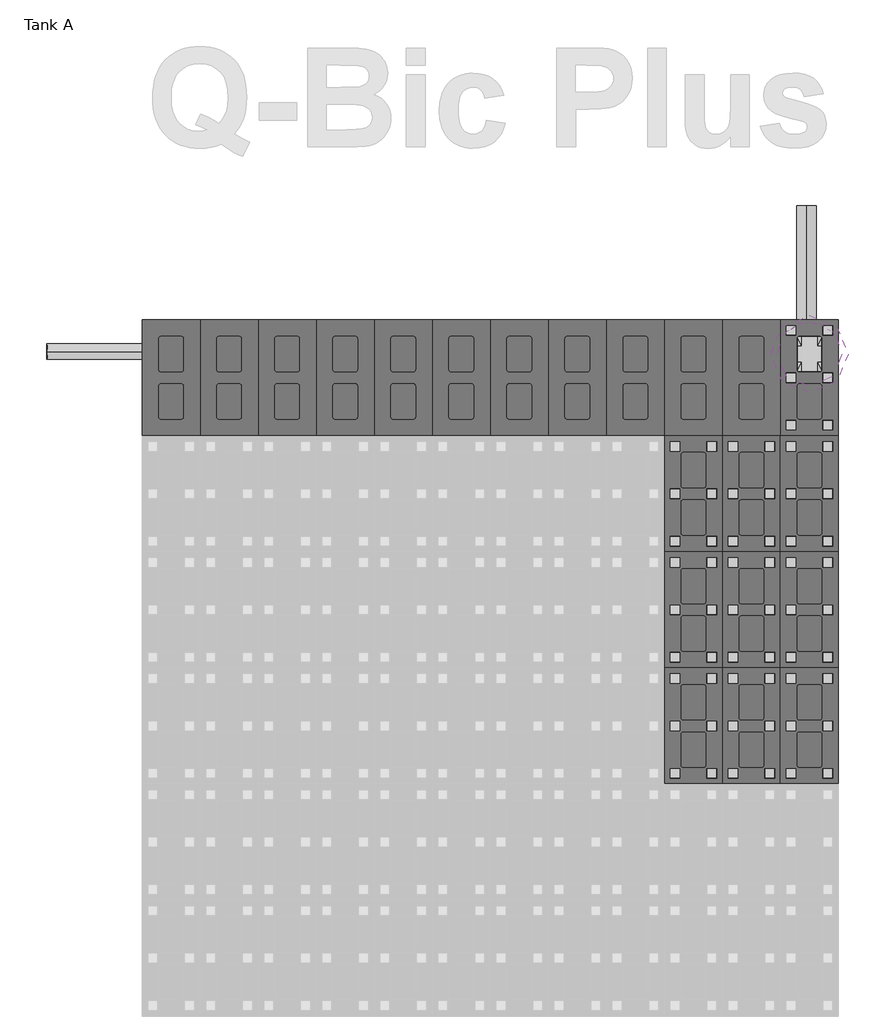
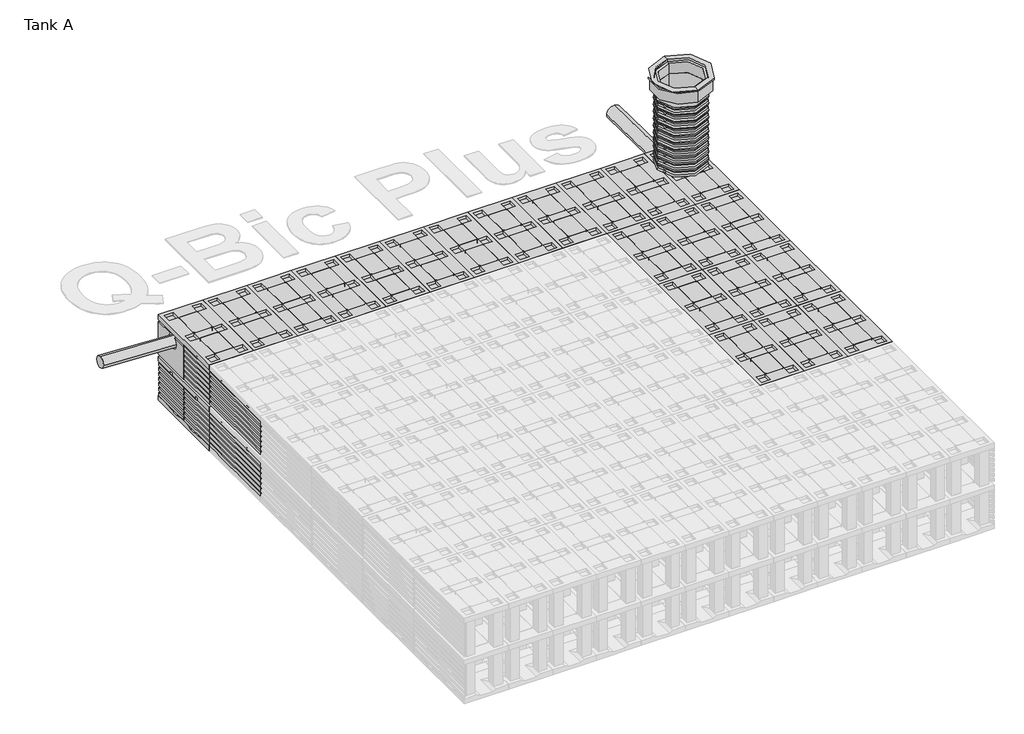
# One storey, part 4 of 6: 92 unitary equipment elements, 2 pipe fittings, 2 pipe segments.
"""IFC4 building model written with IfcOpenShell, lengths in millimetres."""

from ifc_helpers import new_model, si_unit, point, frame, frame_2d, origin, place, context, project, spatial, circle_curve, trimmed, segment, composite_curve, outline, extrude, transform, mapped, element, save
from components import pipe_fitting_6d64b734, pipe_fitting_905b8aec, std_ea1399cf, unitary_equipment_600_9c861f79, closed_bottom_plate_7d425a97, std_f31acf44, std_0451be0c, std_fc4b4af1, std_48edb1db, std_d7962c01

model = new_model("IFC4")

# Units and contexts
model_context = context("Model", 3, world=origin())
ifc_project = project(units=[si_unit("LENGTHUNIT", "METRE", prefix="MILLI")], contexts=[model_context])

# Site, building, storey
site = spatial("IfcSite", under=ifc_project)
building = spatial("IfcBuilding", under=site)
storey = spatial("IfcBuildingStorey", under=building, Name="Tank A", Elevation=-2300.0)

# Pipe fittings
placement = place(None, origin())
pipe_fitting_shape = pipe_fitting_6d64b734(model_context)
pipe_fitting_2_shape = pipe_fitting_905b8aec(model_context)
element("IfcPipeFitting", 1, ObjectType="Z_PIF_UN_Q-Bic_Plus_Shaft_Pipe_Wavin_(nested) : PP, RAL8012, ø600mm", at=placement, inside=storey, context=model_context, shape_type="MappedRepresentation", body=[
    mapped(pipe_fitting_shape, transform((9386.051096, 9605.7779398, -1070.0), x_axis=(0.0, 0.0, 1.0), y_axis=(1.0, 0.0, 0.0), z_axis=(0.0, 1.0, 0.0))),
    mapped(pipe_fitting_2_shape, transform((9386.051096, 9605.7779398, -1070.0), x_axis=(0.0, 0.0, 1.0), y_axis=(1.0, 0.0, 0.0), z_axis=(0.0, 1.0, 0.0))),
])
std_shape = std_ea1399cf(model_context)
element("IfcPipeFitting", 2, ObjectType="Z_PIF_UN_Q-Bic_Plus_Telescopic_Frame_Wavin_(nested) : std", at=placement, inside=storey, context=model_context, shape_type="MappedRepresentation", body=[
    mapped(std_shape, transform((9386.051096, 9605.7779398, 200.0), x_axis=(0.0, -1.0, 0.0), y_axis=(1.0, 0.0, 0.0), z_axis=(0.0, 0.0, 1.0))),
])

# Pipe segments
element("IfcPipeSegment", 3, ObjectType="Generic PVC", at=placement, inside=storey, context=model_context, shape_type="SweptSolid", body=[
    extrude(outline(composite_curve([segment(trimmed(circle_curve(frame_2d((0.0, -100.0)), 100.0), [point((100.0, -100.0))], [point((0.0, -200.0000001))], False, "CARTESIAN"), True, "CONTINUOUS"), segment(trimmed(circle_curve(frame_2d((0.0, -100.0)), 100.0), [point((0.0, -200.0000001))], [point((-100.0, -100.0))], False, "CARTESIAN"), True, "CONTINUOUS"), segment(trimmed(circle_curve(frame_2d((0.0, -100.0)), 100.0), [point((-100.0, -100.0))], [point((0.0, 0.0))], False, "CARTESIAN"), True, "CONTINUOUS"), segment(trimmed(circle_curve(frame_2d((0.0, -100.0)), 100.0), [point((0.0, 0.0))], [point((100.0, -100.0))], False, "CARTESIAN"), True, "CONTINUOUS")], self_intersect=False)), frame((9356.051096, 11141.0805056, -1184.0250628), z_axis=(0.0, -0.9997493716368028, 0.022387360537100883), x_axis=(1.0, 0.0, 0.0)), (0.0, 0.0, 1.0), 1228.3716946),
])
element("IfcPipeSegment", 4, ObjectType="Generic PVC", at=placement, inside=storey, context=model_context, shape_type="SweptSolid", body=[
    extrude(outline(composite_curve([segment(trimmed(circle_curve(frame_2d((0.0, 80.0)), 80.0), [point((-0.0897313, 159.9999497))], [point((79.9999497, 80.0897313))], False, "CARTESIAN"), True, "CONTINUOUS"), segment(trimmed(circle_curve(frame_2d((0.0, 80.0)), 80.0), [point((79.9999497, 80.0897313))], [point((0.0897313, 5.03e-05))], False, "CARTESIAN"), True, "CONTINUOUS"), segment(trimmed(circle_curve(frame_2d((0.0, 80.0)), 80.0), [point((0.0897313, 5.03e-05))], [point((-79.9999497, 79.9102687))], False, "CARTESIAN"), True, "CONTINUOUS"), segment(trimmed(circle_curve(frame_2d((0.0, 80.0)), 80.0), [point((-79.9999497, 79.9102687))], [point((-0.0897313, 159.9999497))], False, "CARTESIAN"), True, "CONTINUOUS")], self_intersect=False)), frame((2536.051096, 9550.77799, -1256.5896265), z_axis=(-0.9988321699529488, -5.4128306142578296e-05, 0.04831452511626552), x_axis=(0.0483145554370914, -0.0011190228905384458, 0.9988315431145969)), (0.0, 0.0, 1.0), 1034.8854693),
])

# Unitary equipment
unitary_equipment_600_shape = unitary_equipment_600_9c861f79(model_context)
element("IfcUnitaryEquipment", 5, ObjectType="Z_ME_UN_Q-Bic_Plus_Kit_Shaft_Connector_Wavin_(nested) : 600", at=placement, inside=storey, context=model_context, shape_type="MappedRepresentation", body=[
    mapped(unitary_equipment_600_shape, transform((9386.051096, 9605.7779398, -1070.0), x_axis=(0.0, -1.0, 0.0), y_axis=(1.0, 0.0, 0.0), z_axis=(0.0, 0.0, 1.0))),
])
closed_bottom_plate_shape = closed_bottom_plate_7d425a97(model_context)
element("IfcUnitaryEquipment", 6, ObjectType="Z_ME_UN_Q-Bic_Plus_Bottom_Plate_Wavin_(nested) : Open bottom plate", at=placement, inside=storey, context=model_context, shape_type="MappedRepresentation", body=[
    mapped(closed_bottom_plate_shape, transform((2486.051096, 9960.7779398, -2230.0), x_axis=(0.0, -1.0000000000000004, 0.0), y_axis=(1.0000000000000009, 0.0, 0.0), z_axis=(0.0, 0.0, 1.0000000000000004))),
])
element("IfcUnitaryEquipment", 7, ObjectType="Z_ME_UN_Q-Bic_Plus_Bottom_Plate_Wavin_(nested) : Open bottom plate", at=placement, inside=storey, context=model_context, shape_type="MappedRepresentation", body=[
    mapped(closed_bottom_plate_shape, transform((9686.051096, 5160.7779398, -2230.0), x_axis=(0.0, 1.0, 0.0), y_axis=(-1.0000000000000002, 0.0, 0.0), z_axis=(0.0, 0.0, 1.0000000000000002))),
])
element("IfcUnitaryEquipment", 8, ObjectType="Z_ME_UN_Q-Bic_Plus_Bottom_Plate_Wavin_(nested) : Open bottom plate", at=placement, inside=storey, context=model_context, shape_type="MappedRepresentation", body=[
    mapped(closed_bottom_plate_shape, transform((9686.051096, 6360.7779398, -2230.0), x_axis=(0.0, 1.0, 0.0), y_axis=(-1.0000000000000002, 0.0, 0.0), z_axis=(0.0, 0.0, 1.0000000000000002))),
])
element("IfcUnitaryEquipment", 9, ObjectType="Z_ME_UN_Q-Bic_Plus_Bottom_Plate_Wavin_(nested) : Open bottom plate", at=placement, inside=storey, context=model_context, shape_type="MappedRepresentation", body=[
    mapped(closed_bottom_plate_shape, transform((9686.051096, 7560.7779398, -2230.0), x_axis=(0.0, 1.0, 0.0), y_axis=(-1.0000000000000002, 0.0, 0.0), z_axis=(0.0, 0.0, 1.0000000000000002))),
])
element("IfcUnitaryEquipment", 10, ObjectType="Z_ME_UN_Q-Bic_Plus_Bottom_Plate_Wavin_(nested) : Open bottom plate", at=placement, inside=storey, context=model_context, shape_type="MappedRepresentation", body=[
    mapped(closed_bottom_plate_shape, transform((9086.051096, 5160.7779398, -2230.0), x_axis=(0.0, 1.0, 0.0), y_axis=(-1.0000000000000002, 0.0, 0.0), z_axis=(0.0, 0.0, 1.0000000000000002))),
])
element("IfcUnitaryEquipment", 11, ObjectType="Z_ME_UN_Q-Bic_Plus_Bottom_Plate_Wavin_(nested) : Open bottom plate", at=placement, inside=storey, context=model_context, shape_type="MappedRepresentation", body=[
    mapped(closed_bottom_plate_shape, transform((9086.051096, 6360.7779398, -2230.0), x_axis=(0.0, 1.0, 0.0), y_axis=(-1.0000000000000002, 0.0, 0.0), z_axis=(0.0, 0.0, 1.0000000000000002))),
])
element("IfcUnitaryEquipment", 12, ObjectType="Z_ME_UN_Q-Bic_Plus_Bottom_Plate_Wavin_(nested) : Open bottom plate", at=placement, inside=storey, context=model_context, shape_type="MappedRepresentation", body=[
    mapped(closed_bottom_plate_shape, transform((9086.051096, 7560.7779398, -2230.0), x_axis=(0.0, 1.0, 0.0), y_axis=(-1.0000000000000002, 0.0, 0.0), z_axis=(0.0, 0.0, 1.0000000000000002))),
])
element("IfcUnitaryEquipment", 13, ObjectType="Z_ME_UN_Q-Bic_Plus_Bottom_Plate_Wavin_(nested) : Open bottom plate", at=placement, inside=storey, context=model_context, shape_type="MappedRepresentation", body=[
    mapped(closed_bottom_plate_shape, transform((8486.051096, 5160.7779398, -2230.0), x_axis=(0.0, 1.0, 0.0), y_axis=(-1.0000000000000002, 0.0, 0.0), z_axis=(0.0, 0.0, 1.0000000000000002))),
])
element("IfcUnitaryEquipment", 14, ObjectType="Z_ME_UN_Q-Bic_Plus_Bottom_Plate_Wavin_(nested) : Open bottom plate", at=placement, inside=storey, context=model_context, shape_type="MappedRepresentation", body=[
    mapped(closed_bottom_plate_shape, transform((8486.051096, 6360.7779398, -2230.0), x_axis=(0.0, 1.0, 0.0), y_axis=(-1.0000000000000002, 0.0, 0.0), z_axis=(0.0, 0.0, 1.0000000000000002))),
])
element("IfcUnitaryEquipment", 15, ObjectType="Z_ME_UN_Q-Bic_Plus_Bottom_Plate_Wavin_(nested) : Open bottom plate", at=placement, inside=storey, context=model_context, shape_type="MappedRepresentation", body=[
    mapped(closed_bottom_plate_shape, transform((8486.051096, 7560.7779398, -2230.0), x_axis=(0.0, 1.0, 0.0), y_axis=(-1.0000000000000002, 0.0, 0.0), z_axis=(0.0, 0.0, 1.0000000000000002))),
])
element("IfcUnitaryEquipment", 16, ObjectType="Z_ME_UN_Q-Bic_Plus_Bottom_Plate_Wavin_(nested) : Open bottom plate", at=placement, inside=storey, context=model_context, shape_type="MappedRepresentation", body=[
    mapped(closed_bottom_plate_shape, transform((3086.051096, 9960.7779398, -2230.0), x_axis=(0.0, -1.0, 0.0), y_axis=(1.0000000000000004, 0.0, 0.0), z_axis=(0.0, 0.0, 1.0000000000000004))),
])
element("IfcUnitaryEquipment", 17, ObjectType="Z_ME_UN_Q-Bic_Plus_Bottom_Plate_Wavin_(nested) : Open bottom plate", at=placement, inside=storey, context=model_context, shape_type="MappedRepresentation", body=[
    mapped(closed_bottom_plate_shape, transform((3686.051096, 9960.7779398, -2230.0), x_axis=(0.0, -1.0, 0.0), y_axis=(1.0000000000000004, 0.0, 0.0), z_axis=(0.0, 0.0, 1.0000000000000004))),
])
element("IfcUnitaryEquipment", 18, ObjectType="Z_ME_UN_Q-Bic_Plus_Bottom_Plate_Wavin_(nested) : Open bottom plate", at=placement, inside=storey, context=model_context, shape_type="MappedRepresentation", body=[
    mapped(closed_bottom_plate_shape, transform((4286.051096, 9960.7779398, -2230.0), x_axis=(0.0, -1.0, 0.0), y_axis=(1.0000000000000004, 0.0, 0.0), z_axis=(0.0, 0.0, 1.0000000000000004))),
])
element("IfcUnitaryEquipment", 19, ObjectType="Z_ME_UN_Q-Bic_Plus_Bottom_Plate_Wavin_(nested) : Open bottom plate", at=placement, inside=storey, context=model_context, shape_type="MappedRepresentation", body=[
    mapped(closed_bottom_plate_shape, transform((4886.051096, 9960.7779398, -2230.0), x_axis=(0.0, -1.0, 0.0), y_axis=(1.0000000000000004, 0.0, 0.0), z_axis=(0.0, 0.0, 1.0000000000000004))),
])
element("IfcUnitaryEquipment", 20, ObjectType="Z_ME_UN_Q-Bic_Plus_Bottom_Plate_Wavin_(nested) : Open bottom plate", at=placement, inside=storey, context=model_context, shape_type="MappedRepresentation", body=[
    mapped(closed_bottom_plate_shape, transform((5486.051096, 9960.7779398, -2230.0), x_axis=(0.0, -1.0, 0.0), y_axis=(1.0000000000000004, 0.0, 0.0), z_axis=(0.0, 0.0, 1.0000000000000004))),
])
element("IfcUnitaryEquipment", 21, ObjectType="Z_ME_UN_Q-Bic_Plus_Bottom_Plate_Wavin_(nested) : Open bottom plate", at=placement, inside=storey, context=model_context, shape_type="MappedRepresentation", body=[
    mapped(closed_bottom_plate_shape, transform((6086.051096, 9960.7779398, -2230.0), x_axis=(0.0, -1.0, 0.0), y_axis=(1.0000000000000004, 0.0, 0.0), z_axis=(0.0, 0.0, 1.0000000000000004))),
])
element("IfcUnitaryEquipment", 22, ObjectType="Z_ME_UN_Q-Bic_Plus_Bottom_Plate_Wavin_(nested) : Open bottom plate", at=placement, inside=storey, context=model_context, shape_type="MappedRepresentation", body=[
    mapped(closed_bottom_plate_shape, transform((6686.051096, 9960.7779398, -2230.0), x_axis=(0.0, -1.0, 0.0), y_axis=(1.0000000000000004, 0.0, 0.0), z_axis=(0.0, 0.0, 1.0000000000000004))),
])
element("IfcUnitaryEquipment", 23, ObjectType="Z_ME_UN_Q-Bic_Plus_Bottom_Plate_Wavin_(nested) : Open bottom plate", at=placement, inside=storey, context=model_context, shape_type="MappedRepresentation", body=[
    mapped(closed_bottom_plate_shape, transform((7286.051096, 9960.7779398, -2230.0), x_axis=(0.0, -1.0, 0.0), y_axis=(1.0000000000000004, 0.0, 0.0), z_axis=(0.0, 0.0, 1.0000000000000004))),
])
element("IfcUnitaryEquipment", 24, ObjectType="Z_ME_UN_Q-Bic_Plus_Bottom_Plate_Wavin_(nested) : Open bottom plate", at=placement, inside=storey, context=model_context, shape_type="MappedRepresentation", body=[
    mapped(closed_bottom_plate_shape, transform((7886.051096, 9960.7779398, -2230.0), x_axis=(0.0, -1.0, 0.0), y_axis=(1.0000000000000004, 0.0, 0.0), z_axis=(0.0, 0.0, 1.0000000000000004))),
])
element("IfcUnitaryEquipment", 25, ObjectType="Z_ME_UN_Q-Bic_Plus_Bottom_Plate_Wavin_(nested) : Open bottom plate", at=placement, inside=storey, context=model_context, shape_type="MappedRepresentation", body=[
    mapped(closed_bottom_plate_shape, transform((8486.051096, 9960.7779398, -2230.0), x_axis=(0.0, -1.0, 0.0), y_axis=(1.0000000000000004, 0.0, 0.0), z_axis=(0.0, 0.0, 1.0000000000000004))),
])
element("IfcUnitaryEquipment", 26, ObjectType="Z_ME_UN_Q-Bic_Plus_Bottom_Plate_Wavin_(nested) : Open bottom plate", at=placement, inside=storey, context=model_context, shape_type="MappedRepresentation", body=[
    mapped(closed_bottom_plate_shape, transform((9086.051096, 9960.7779398, -2230.0), x_axis=(0.0, -1.0, 0.0), y_axis=(1.0, 0.0, 0.0), z_axis=(0.0, 0.0, 1.0))),
])
std_2_shape = std_f31acf44(model_context)
element("IfcUnitaryEquipment", 27, ObjectType="Z_ME_UN_Q-Bic_Plus_Lateral_Side_Plate_Wavin_(nested) : std", at=placement, inside=storey, context=model_context, shape_type="MappedRepresentation", body=[
    mapped(std_2_shape, transform((6086.051096, 9960.7779398, -2330.0), x_axis=(-1.0000000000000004, 0.0, 0.0), y_axis=(0.0, -1.0000000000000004, 0.0), z_axis=(0.0, 0.0, 1.0))),
])
element("IfcUnitaryEquipment", 28, ObjectType="Z_ME_UN_Q-Bic_Plus_Lateral_Side_Plate_Wavin_(nested) : std", at=placement, inside=storey, context=model_context, shape_type="MappedRepresentation", body=[
    mapped(std_2_shape, transform((6086.051096, 9960.7779398, -1730.0), x_axis=(-1.0000000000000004, 0.0, 0.0), y_axis=(0.0, -1.0000000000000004, 0.0), z_axis=(0.0, 0.0, 1.0))),
])
element("IfcUnitaryEquipment", 29, ObjectType="Z_ME_UN_Q-Bic_Plus_Lateral_Side_Plate_Wavin_(nested) : std", at=placement, inside=storey, context=model_context, shape_type="MappedRepresentation", body=[
    mapped(std_2_shape, transform((7286.051096, 9960.7779398, -2330.0), x_axis=(-1.0000000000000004, 0.0, 0.0), y_axis=(0.0, -1.0000000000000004, 0.0), z_axis=(0.0, 0.0, 1.0))),
])
element("IfcUnitaryEquipment", 30, ObjectType="Z_ME_UN_Q-Bic_Plus_Lateral_Side_Plate_Wavin_(nested) : std", at=placement, inside=storey, context=model_context, shape_type="MappedRepresentation", body=[
    mapped(std_2_shape, transform((7286.051096, 9960.7779398, -1730.0), x_axis=(-1.0000000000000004, 0.0, 0.0), y_axis=(0.0, -1.0000000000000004, 0.0), z_axis=(0.0, 0.0, 1.0))),
])
element("IfcUnitaryEquipment", 31, ObjectType="Z_ME_UN_Q-Bic_Plus_Lateral_Side_Plate_Wavin_(nested) : std", at=placement, inside=storey, context=model_context, shape_type="MappedRepresentation", body=[
    mapped(std_2_shape, transform((8486.051096, 9960.7779398, -2330.0), x_axis=(-1.0000000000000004, 0.0, 0.0), y_axis=(0.0, -1.0000000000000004, 0.0), z_axis=(0.0, 0.0, 1.0))),
])
element("IfcUnitaryEquipment", 32, ObjectType="Z_ME_UN_Q-Bic_Plus_Lateral_Side_Plate_Wavin_(nested) : std", at=placement, inside=storey, context=model_context, shape_type="MappedRepresentation", body=[
    mapped(std_2_shape, transform((8486.051096, 9960.7779398, -1730.0), x_axis=(-1.0000000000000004, 0.0, 0.0), y_axis=(0.0, -1.0000000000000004, 0.0), z_axis=(0.0, 0.0, 1.0))),
])
element("IfcUnitaryEquipment", 33, ObjectType="Z_ME_UN_Q-Bic_Plus_Lateral_Side_Plate_Wavin_(nested) : std", at=placement, inside=storey, context=model_context, shape_type="MappedRepresentation", body=[
    mapped(std_2_shape, transform((9686.051096, 6360.7779398, -2330.0), x_axis=(0.0, 1.0000000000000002, 0.0), y_axis=(-1.0000000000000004, 0.0, 0.0), z_axis=(0.0, 0.0, 1.0000000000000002))),
])
element("IfcUnitaryEquipment", 34, ObjectType="Z_ME_UN_Q-Bic_Plus_Lateral_Side_Plate_Wavin_(nested) : std", at=placement, inside=storey, context=model_context, shape_type="MappedRepresentation", body=[
    mapped(std_2_shape, transform((9686.051096, 6360.7779398, -1730.0), x_axis=(0.0, 1.0000000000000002, 0.0), y_axis=(-1.0000000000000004, 0.0, 0.0), z_axis=(0.0, 0.0, 1.0000000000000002))),
])
element("IfcUnitaryEquipment", 35, ObjectType="Z_ME_UN_Q-Bic_Plus_Lateral_Side_Plate_Wavin_(nested) : std", at=placement, inside=storey, context=model_context, shape_type="MappedRepresentation", body=[
    mapped(std_2_shape, transform((9686.051096, 5160.7779398, -2330.0), x_axis=(0.0, 1.0000000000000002, 0.0), y_axis=(-1.0000000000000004, 0.0, 0.0), z_axis=(0.0, 0.0, 1.0000000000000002))),
])
element("IfcUnitaryEquipment", 36, ObjectType="Z_ME_UN_Q-Bic_Plus_Lateral_Side_Plate_Wavin_(nested) : std", at=placement, inside=storey, context=model_context, shape_type="MappedRepresentation", body=[
    mapped(std_2_shape, transform((9686.051096, 5160.7779398, -1730.0), x_axis=(0.0, 1.0000000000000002, 0.0), y_axis=(-1.0000000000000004, 0.0, 0.0), z_axis=(0.0, 0.0, 1.0000000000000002))),
])
element("IfcUnitaryEquipment", 37, ObjectType="Z_ME_UN_Q-Bic_Plus_Lateral_Side_Plate_Wavin_(nested) : std", at=placement, inside=storey, context=model_context, shape_type="MappedRepresentation", body=[
    mapped(std_2_shape, transform((2486.051096, 8760.7779398, -2330.0), x_axis=(0.0, -1.0000000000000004, 0.0), y_axis=(1.0000000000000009, 0.0, 0.0), z_axis=(0.0, 0.0, 1.0000000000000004))),
])
element("IfcUnitaryEquipment", 38, ObjectType="Z_ME_UN_Q-Bic_Plus_Lateral_Side_Plate_Wavin_(nested) : std", at=placement, inside=storey, context=model_context, shape_type="MappedRepresentation", body=[
    mapped(std_2_shape, transform((2486.051096, 8760.7779398, -1730.0), x_axis=(0.0, -1.0000000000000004, 0.0), y_axis=(1.0000000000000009, 0.0, 0.0), z_axis=(0.0, 0.0, 1.0000000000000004))),
])
element("IfcUnitaryEquipment", 39, ObjectType="Z_ME_UN_Q-Bic_Plus_Lateral_Side_Plate_Wavin_(nested) : std", at=placement, inside=storey, context=model_context, shape_type="MappedRepresentation", body=[
    mapped(std_2_shape, transform((9686.051096, 7560.7779398, -2330.0), x_axis=(0.0, 1.0000000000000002, 0.0), y_axis=(-1.0000000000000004, 0.0, 0.0), z_axis=(0.0, 0.0, 1.0000000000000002))),
])
element("IfcUnitaryEquipment", 40, ObjectType="Z_ME_UN_Q-Bic_Plus_Lateral_Side_Plate_Wavin_(nested) : std", at=placement, inside=storey, context=model_context, shape_type="MappedRepresentation", body=[
    mapped(std_2_shape, transform((9686.051096, 7560.7779398, -1730.0), x_axis=(0.0, 1.0000000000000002, 0.0), y_axis=(-1.0000000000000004, 0.0, 0.0), z_axis=(0.0, 0.0, 1.0000000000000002))),
])
element("IfcUnitaryEquipment", 41, ObjectType="Z_ME_UN_Q-Bic_Plus_Lateral_Side_Plate_Wavin_(nested) : std", at=placement, inside=storey, context=model_context, shape_type="MappedRepresentation", body=[
    mapped(std_2_shape, transform((9686.051096, 8760.7779398, -2330.0), x_axis=(0.0, 1.0000000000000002, 0.0), y_axis=(-1.0000000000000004, 0.0, 0.0), z_axis=(0.0, 0.0, 1.0000000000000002))),
])
element("IfcUnitaryEquipment", 42, ObjectType="Z_ME_UN_Q-Bic_Plus_Lateral_Side_Plate_Wavin_(nested) : std", at=placement, inside=storey, context=model_context, shape_type="MappedRepresentation", body=[
    mapped(std_2_shape, transform((9686.051096, 8760.7779398, -1730.0), x_axis=(0.0, 1.0000000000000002, 0.0), y_axis=(-1.0000000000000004, 0.0, 0.0), z_axis=(0.0, 0.0, 1.0000000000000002))),
])
element("IfcUnitaryEquipment", 43, ObjectType="Z_ME_UN_Q-Bic_Plus_Lateral_Side_Plate_Wavin_(nested) : std", at=placement, inside=storey, context=model_context, shape_type="MappedRepresentation", body=[
    mapped(std_2_shape, transform((4886.051096, 9960.7779398, -2330.0), x_axis=(-1.0000000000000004, 0.0, 0.0), y_axis=(0.0, -1.0000000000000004, 0.0), z_axis=(0.0, 0.0, 1.0))),
])
element("IfcUnitaryEquipment", 44, ObjectType="Z_ME_UN_Q-Bic_Plus_Lateral_Side_Plate_Wavin_(nested) : std", at=placement, inside=storey, context=model_context, shape_type="MappedRepresentation", body=[
    mapped(std_2_shape, transform((4886.051096, 9960.7779398, -1730.0), x_axis=(-1.0000000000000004, 0.0, 0.0), y_axis=(0.0, -1.0000000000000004, 0.0), z_axis=(0.0, 0.0, 1.0))),
])
element("IfcUnitaryEquipment", 45, ObjectType="Z_ME_UN_Q-Bic_Plus_Lateral_Side_Plate_Wavin_(nested) : std", at=placement, inside=storey, context=model_context, shape_type="MappedRepresentation", body=[
    mapped(std_2_shape, transform((3686.051096, 9960.7779398, -2330.0), x_axis=(-1.0000000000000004, 0.0, 0.0), y_axis=(0.0, -1.0000000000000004, 0.0), z_axis=(0.0, 0.0, 1.0))),
])
element("IfcUnitaryEquipment", 46, ObjectType="Z_ME_UN_Q-Bic_Plus_Lateral_Side_Plate_Wavin_(nested) : std", at=placement, inside=storey, context=model_context, shape_type="MappedRepresentation", body=[
    mapped(std_2_shape, transform((3686.051096, 9960.7779398, -1730.0), x_axis=(-1.0000000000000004, 0.0, 0.0), y_axis=(0.0, -1.0000000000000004, 0.0), z_axis=(0.0, 0.0, 1.0))),
])
std_3_shape = std_0451be0c(model_context)
element("IfcUnitaryEquipment", 47, ObjectType="Z_ME_UN_Q-Bic_Plus_Lateral_Side_Plate_Wavin_(nested) : std", at=placement, inside=storey, context=model_context, shape_type="MappedRepresentation", body=[
    mapped(std_3_shape, transform((9686.051096, 9960.7779398, -2330.0), x_axis=(-1.0000000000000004, 0.0, 0.0), y_axis=(0.0, -1.0000000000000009, 0.0), z_axis=(0.0, 0.0, 1.0000000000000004))),
])
element("IfcUnitaryEquipment", 48, ObjectType="Z_ME_UN_Q-Bic_Plus_Lateral_Side_Plate_Wavin_(nested) : std", at=placement, inside=storey, context=model_context, shape_type="MappedRepresentation", body=[
    mapped(std_3_shape, transform((2486.051096, 9960.7779398, -2330.0), x_axis=(0.0, -1.0000000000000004, 0.0), y_axis=(1.0000000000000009, 0.0, 0.0), z_axis=(0.0, 0.0, 1.0000000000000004))),
])
element("IfcUnitaryEquipment", 49, ObjectType="Z_ME_UN_Q-Bic_Plus_Lateral_Side_Plate_Wavin_(nested) : std", at=placement, inside=storey, context=model_context, shape_type="MappedRepresentation", body=[
    mapped(std_3_shape, transform((2486.051096, 9368.7779398, -1730.0), x_axis=(0.0, -1.0000000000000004, 0.0), y_axis=(1.0000000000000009, 0.0, 0.0), z_axis=(0.0, 0.0, 1.0000000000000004))),
])
element("IfcUnitaryEquipment", 50, ObjectType="Z_ME_UN_Q-Bic_Plus_Lateral_Side_Plate_Wavin_(nested) : std", at=placement, inside=storey, context=model_context, shape_type="MappedRepresentation", body=[
    mapped(std_3_shape, transform((2486.051096, 9368.7779398, -2330.0), x_axis=(0.0, -1.0000000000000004, 0.0), y_axis=(1.0000000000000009, 0.0, 0.0), z_axis=(0.0, 0.0, 1.0000000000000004))),
])
element("IfcUnitaryEquipment", 51, ObjectType="Z_ME_UN_Q-Bic_Plus_Lateral_Side_Plate_Wavin_(nested) : std", at=placement, inside=storey, context=model_context, shape_type="MappedRepresentation", body=[
    mapped(std_3_shape, transform((9094.051096, 9960.7779398, -1730.0), x_axis=(-1.0000000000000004, 0.0, 0.0), y_axis=(0.0, -1.0000000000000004, 0.0), z_axis=(0.0, 0.0, 1.0))),
])
element("IfcUnitaryEquipment", 52, ObjectType="Z_ME_UN_Q-Bic_Plus_Lateral_Side_Plate_Wavin_(nested) : std", at=placement, inside=storey, context=model_context, shape_type="MappedRepresentation", body=[
    mapped(std_3_shape, transform((9094.051096, 9960.7779398, -2330.0), x_axis=(-1.0000000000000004, 0.0, 0.0), y_axis=(0.0, -1.0000000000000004, 0.0), z_axis=(0.0, 0.0, 1.0))),
])
std_4_shape = std_fc4b4af1(model_context)
element("IfcUnitaryEquipment", 53, ObjectType="Z_ME_UN_Q-Bic_Plus_Connection_Plate_Wavin_(nested) : std", at=placement, inside=storey, context=model_context, shape_type="MappedRepresentation", body=[
    mapped(std_4_shape, transform((9686.051096, 9960.7779398, -1730.0), x_axis=(-1.0000000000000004, 0.0, 0.0), y_axis=(0.0, -1.0000000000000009, 0.0), z_axis=(0.0, 0.0, 1.0000000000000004))),
])
element("IfcUnitaryEquipment", 54, ObjectType="Z_ME_UN_Q-Bic_Plus_Connection_Plate_Wavin_(nested) : std", at=placement, inside=storey, context=model_context, shape_type="MappedRepresentation", body=[
    mapped(std_4_shape, transform((2486.051096, 9960.7779398, -1730.0), x_axis=(0.0, -1.0000000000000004, 0.0), y_axis=(1.0000000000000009, 0.0, 0.0), z_axis=(0.0, 0.0, 1.0000000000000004))),
])
std_5_shape = std_48edb1db(model_context)
element("IfcUnitaryEquipment", 55, ObjectType="Z_ME_UN_Q-Bic_Plus_Infiltration_Unit_Wavin_(nested) : std", at=placement, inside=storey, context=model_context, shape_type="MappedRepresentation", body=[
    mapped(std_5_shape, transform((9086.051096, 9960.7779398, -1670.0), x_axis=(0.0, -1.0, 0.0), y_axis=(1.0, 0.0, 0.0), z_axis=(0.0, 0.0, 1.0))),
])
element("IfcUnitaryEquipment", 56, ObjectType="Z_ME_UN_Q-Bic_Plus_Infiltration_Unit_Wavin_(nested) : std", at=placement, inside=storey, context=model_context, shape_type="MappedRepresentation", body=[
    mapped(std_5_shape, transform((9086.051096, 9960.7779398, -2270.0), x_axis=(0.0, -1.0, 0.0), y_axis=(1.0, 0.0, 0.0), z_axis=(0.0, 0.0, 1.0))),
])
std_6_shape = std_d7962c01(model_context)
element("IfcUnitaryEquipment", 57, ObjectType="Z_ME_UN_Q-Bic_Plus_Infiltration_Unit_Wavin_(nested) : std", at=placement, inside=storey, context=model_context, shape_type="MappedRepresentation", body=[
    mapped(std_6_shape, transform((2486.051096, 9960.7779398, -1670.0), x_axis=(0.0, -1.0000000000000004, 0.0), y_axis=(1.0000000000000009, 0.0, 0.0), z_axis=(0.0, 0.0, 1.0000000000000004))),
])
element("IfcUnitaryEquipment", 58, ObjectType="Z_ME_UN_Q-Bic_Plus_Infiltration_Unit_Wavin_(nested) : std", at=placement, inside=storey, context=model_context, shape_type="MappedRepresentation", body=[
    mapped(std_6_shape, transform((2486.051096, 9960.7779398, -2270.0), x_axis=(0.0, -1.0000000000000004, 0.0), y_axis=(1.0000000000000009, 0.0, 0.0), z_axis=(0.0, 0.0, 1.0000000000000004))),
])
element("IfcUnitaryEquipment", 59, ObjectType="Z_ME_UN_Q-Bic_Plus_Infiltration_Unit_Wavin_(nested) : std", at=placement, inside=storey, context=model_context, shape_type="MappedRepresentation", body=[
    mapped(std_6_shape, transform((9686.051096, 5160.7779398, -1670.0), x_axis=(0.0, 1.0, 0.0), y_axis=(-1.0000000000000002, 0.0, 0.0), z_axis=(0.0, 0.0, 1.0000000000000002))),
])
element("IfcUnitaryEquipment", 60, ObjectType="Z_ME_UN_Q-Bic_Plus_Infiltration_Unit_Wavin_(nested) : std", at=placement, inside=storey, context=model_context, shape_type="MappedRepresentation", body=[
    mapped(std_6_shape, transform((9686.051096, 5160.7779398, -2270.0), x_axis=(0.0, 1.0, 0.0), y_axis=(-1.0000000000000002, 0.0, 0.0), z_axis=(0.0, 0.0, 1.0000000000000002))),
])
element("IfcUnitaryEquipment", 61, ObjectType="Z_ME_UN_Q-Bic_Plus_Infiltration_Unit_Wavin_(nested) : std", at=placement, inside=storey, context=model_context, shape_type="MappedRepresentation", body=[
    mapped(std_6_shape, transform((9686.051096, 6360.7779398, -1670.0), x_axis=(0.0, 1.0, 0.0), y_axis=(-1.0000000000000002, 0.0, 0.0), z_axis=(0.0, 0.0, 1.0000000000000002))),
])
element("IfcUnitaryEquipment", 62, ObjectType="Z_ME_UN_Q-Bic_Plus_Infiltration_Unit_Wavin_(nested) : std", at=placement, inside=storey, context=model_context, shape_type="MappedRepresentation", body=[
    mapped(std_6_shape, transform((9686.051096, 6360.7779398, -2270.0), x_axis=(0.0, 1.0, 0.0), y_axis=(-1.0000000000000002, 0.0, 0.0), z_axis=(0.0, 0.0, 1.0000000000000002))),
])
element("IfcUnitaryEquipment", 63, ObjectType="Z_ME_UN_Q-Bic_Plus_Infiltration_Unit_Wavin_(nested) : std", at=placement, inside=storey, context=model_context, shape_type="MappedRepresentation", body=[
    mapped(std_6_shape, transform((9686.051096, 7560.7779398, -1670.0), x_axis=(0.0, 1.0, 0.0), y_axis=(-1.0000000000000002, 0.0, 0.0), z_axis=(0.0, 0.0, 1.0000000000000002))),
])
element("IfcUnitaryEquipment", 64, ObjectType="Z_ME_UN_Q-Bic_Plus_Infiltration_Unit_Wavin_(nested) : std", at=placement, inside=storey, context=model_context, shape_type="MappedRepresentation", body=[
    mapped(std_6_shape, transform((9686.051096, 7560.7779398, -2270.0), x_axis=(0.0, 1.0, 0.0), y_axis=(-1.0000000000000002, 0.0, 0.0), z_axis=(0.0, 0.0, 1.0000000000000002))),
])
element("IfcUnitaryEquipment", 65, ObjectType="Z_ME_UN_Q-Bic_Plus_Infiltration_Unit_Wavin_(nested) : std", at=placement, inside=storey, context=model_context, shape_type="MappedRepresentation", body=[
    mapped(std_6_shape, transform((9086.051096, 5160.7779398, -1670.0), x_axis=(0.0, 1.0, 0.0), y_axis=(-1.0000000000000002, 0.0, 0.0), z_axis=(0.0, 0.0, 1.0000000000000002))),
])
element("IfcUnitaryEquipment", 66, ObjectType="Z_ME_UN_Q-Bic_Plus_Infiltration_Unit_Wavin_(nested) : std", at=placement, inside=storey, context=model_context, shape_type="MappedRepresentation", body=[
    mapped(std_6_shape, transform((9086.051096, 5160.7779398, -2270.0), x_axis=(0.0, 1.0, 0.0), y_axis=(-1.0000000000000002, 0.0, 0.0), z_axis=(0.0, 0.0, 1.0000000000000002))),
])
element("IfcUnitaryEquipment", 67, ObjectType="Z_ME_UN_Q-Bic_Plus_Infiltration_Unit_Wavin_(nested) : std", at=placement, inside=storey, context=model_context, shape_type="MappedRepresentation", body=[
    mapped(std_6_shape, transform((9086.051096, 6360.7779398, -1670.0), x_axis=(0.0, 1.0, 0.0), y_axis=(-1.0000000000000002, 0.0, 0.0), z_axis=(0.0, 0.0, 1.0000000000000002))),
])
element("IfcUnitaryEquipment", 68, ObjectType="Z_ME_UN_Q-Bic_Plus_Infiltration_Unit_Wavin_(nested) : std", at=placement, inside=storey, context=model_context, shape_type="MappedRepresentation", body=[
    mapped(std_6_shape, transform((9086.051096, 6360.7779398, -2270.0), x_axis=(0.0, 1.0, 0.0), y_axis=(-1.0000000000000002, 0.0, 0.0), z_axis=(0.0, 0.0, 1.0000000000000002))),
])
element("IfcUnitaryEquipment", 69, ObjectType="Z_ME_UN_Q-Bic_Plus_Infiltration_Unit_Wavin_(nested) : std", at=placement, inside=storey, context=model_context, shape_type="MappedRepresentation", body=[
    mapped(std_6_shape, transform((9086.051096, 7560.7779398, -1670.0), x_axis=(0.0, 1.0, 0.0), y_axis=(-1.0000000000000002, 0.0, 0.0), z_axis=(0.0, 0.0, 1.0000000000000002))),
])
element("IfcUnitaryEquipment", 70, ObjectType="Z_ME_UN_Q-Bic_Plus_Infiltration_Unit_Wavin_(nested) : std", at=placement, inside=storey, context=model_context, shape_type="MappedRepresentation", body=[
    mapped(std_6_shape, transform((9086.051096, 7560.7779398, -2270.0), x_axis=(0.0, 1.0, 0.0), y_axis=(-1.0000000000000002, 0.0, 0.0), z_axis=(0.0, 0.0, 1.0000000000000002))),
])
element("IfcUnitaryEquipment", 71, ObjectType="Z_ME_UN_Q-Bic_Plus_Infiltration_Unit_Wavin_(nested) : std", at=placement, inside=storey, context=model_context, shape_type="MappedRepresentation", body=[
    mapped(std_6_shape, transform((8486.051096, 5160.7779398, -1670.0), x_axis=(0.0, 1.0, 0.0), y_axis=(-1.0000000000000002, 0.0, 0.0), z_axis=(0.0, 0.0, 1.0000000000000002))),
])
element("IfcUnitaryEquipment", 72, ObjectType="Z_ME_UN_Q-Bic_Plus_Infiltration_Unit_Wavin_(nested) : std", at=placement, inside=storey, context=model_context, shape_type="MappedRepresentation", body=[
    mapped(std_6_shape, transform((8486.051096, 5160.7779398, -2270.0), x_axis=(0.0, 1.0, 0.0), y_axis=(-1.0000000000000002, 0.0, 0.0), z_axis=(0.0, 0.0, 1.0000000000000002))),
])
element("IfcUnitaryEquipment", 73, ObjectType="Z_ME_UN_Q-Bic_Plus_Infiltration_Unit_Wavin_(nested) : std", at=placement, inside=storey, context=model_context, shape_type="MappedRepresentation", body=[
    mapped(std_6_shape, transform((8486.051096, 6360.7779398, -1670.0), x_axis=(0.0, 1.0, 0.0), y_axis=(-1.0000000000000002, 0.0, 0.0), z_axis=(0.0, 0.0, 1.0000000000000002))),
])
element("IfcUnitaryEquipment", 74, ObjectType="Z_ME_UN_Q-Bic_Plus_Infiltration_Unit_Wavin_(nested) : std", at=placement, inside=storey, context=model_context, shape_type="MappedRepresentation", body=[
    mapped(std_6_shape, transform((8486.051096, 6360.7779398, -2270.0), x_axis=(0.0, 1.0, 0.0), y_axis=(-1.0000000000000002, 0.0, 0.0), z_axis=(0.0, 0.0, 1.0000000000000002))),
])
element("IfcUnitaryEquipment", 75, ObjectType="Z_ME_UN_Q-Bic_Plus_Infiltration_Unit_Wavin_(nested) : std", at=placement, inside=storey, context=model_context, shape_type="MappedRepresentation", body=[
    mapped(std_6_shape, transform((8486.051096, 7560.7779398, -1670.0), x_axis=(0.0, 1.0, 0.0), y_axis=(-1.0000000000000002, 0.0, 0.0), z_axis=(0.0, 0.0, 1.0000000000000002))),
])
element("IfcUnitaryEquipment", 76, ObjectType="Z_ME_UN_Q-Bic_Plus_Infiltration_Unit_Wavin_(nested) : std", at=placement, inside=storey, context=model_context, shape_type="MappedRepresentation", body=[
    mapped(std_6_shape, transform((8486.051096, 7560.7779398, -2270.0), x_axis=(0.0, 1.0, 0.0), y_axis=(-1.0000000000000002, 0.0, 0.0), z_axis=(0.0, 0.0, 1.0000000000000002))),
])
element("IfcUnitaryEquipment", 77, ObjectType="Z_ME_UN_Q-Bic_Plus_Infiltration_Unit_Wavin_(nested) : std", at=placement, inside=storey, context=model_context, shape_type="MappedRepresentation", body=[
    mapped(std_6_shape, transform((3086.051096, 9960.7779398, -1670.0), x_axis=(0.0, -1.0, 0.0), y_axis=(1.0000000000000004, 0.0, 0.0), z_axis=(0.0, 0.0, 1.0000000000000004))),
])
element("IfcUnitaryEquipment", 78, ObjectType="Z_ME_UN_Q-Bic_Plus_Infiltration_Unit_Wavin_(nested) : std", at=placement, inside=storey, context=model_context, shape_type="MappedRepresentation", body=[
    mapped(std_6_shape, transform((3086.051096, 9960.7779398, -2270.0), x_axis=(0.0, -1.0, 0.0), y_axis=(1.0000000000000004, 0.0, 0.0), z_axis=(0.0, 0.0, 1.0000000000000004))),
])
element("IfcUnitaryEquipment", 79, ObjectType="Z_ME_UN_Q-Bic_Plus_Infiltration_Unit_Wavin_(nested) : std", at=placement, inside=storey, context=model_context, shape_type="MappedRepresentation", body=[
    mapped(std_6_shape, transform((3686.051096, 9960.7779398, -1670.0), x_axis=(0.0, -1.0, 0.0), y_axis=(1.0000000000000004, 0.0, 0.0), z_axis=(0.0, 0.0, 1.0000000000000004))),
])
element("IfcUnitaryEquipment", 80, ObjectType="Z_ME_UN_Q-Bic_Plus_Infiltration_Unit_Wavin_(nested) : std", at=placement, inside=storey, context=model_context, shape_type="MappedRepresentation", body=[
    mapped(std_6_shape, transform((3686.051096, 9960.7779398, -2270.0), x_axis=(0.0, -1.0, 0.0), y_axis=(1.0000000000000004, 0.0, 0.0), z_axis=(0.0, 0.0, 1.0000000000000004))),
])
element("IfcUnitaryEquipment", 81, ObjectType="Z_ME_UN_Q-Bic_Plus_Infiltration_Unit_Wavin_(nested) : std", at=placement, inside=storey, context=model_context, shape_type="MappedRepresentation", body=[
    mapped(std_6_shape, transform((4286.051096, 9960.7779398, -1670.0), x_axis=(0.0, -1.0, 0.0), y_axis=(1.0000000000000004, 0.0, 0.0), z_axis=(0.0, 0.0, 1.0000000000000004))),
])
element("IfcUnitaryEquipment", 82, ObjectType="Z_ME_UN_Q-Bic_Plus_Infiltration_Unit_Wavin_(nested) : std", at=placement, inside=storey, context=model_context, shape_type="MappedRepresentation", body=[
    mapped(std_6_shape, transform((4286.051096, 9960.7779398, -2270.0), x_axis=(0.0, -1.0, 0.0), y_axis=(1.0000000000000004, 0.0, 0.0), z_axis=(0.0, 0.0, 1.0000000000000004))),
])
element("IfcUnitaryEquipment", 83, ObjectType="Z_ME_UN_Q-Bic_Plus_Infiltration_Unit_Wavin_(nested) : std", at=placement, inside=storey, context=model_context, shape_type="MappedRepresentation", body=[
    mapped(std_6_shape, transform((4886.051096, 9960.7779398, -1670.0), x_axis=(0.0, -1.0, 0.0), y_axis=(1.0000000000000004, 0.0, 0.0), z_axis=(0.0, 0.0, 1.0000000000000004))),
])
element("IfcUnitaryEquipment", 84, ObjectType="Z_ME_UN_Q-Bic_Plus_Infiltration_Unit_Wavin_(nested) : std", at=placement, inside=storey, context=model_context, shape_type="MappedRepresentation", body=[
    mapped(std_6_shape, transform((4886.051096, 9960.7779398, -2270.0), x_axis=(0.0, -1.0, 0.0), y_axis=(1.0000000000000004, 0.0, 0.0), z_axis=(0.0, 0.0, 1.0000000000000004))),
])
element("IfcUnitaryEquipment", 85, ObjectType="Z_ME_UN_Q-Bic_Plus_Infiltration_Unit_Wavin_(nested) : std", at=placement, inside=storey, context=model_context, shape_type="MappedRepresentation", body=[
    mapped(std_6_shape, transform((5486.051096, 9960.7779398, -1670.0), x_axis=(0.0, -1.0, 0.0), y_axis=(1.0000000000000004, 0.0, 0.0), z_axis=(0.0, 0.0, 1.0000000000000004))),
])
element("IfcUnitaryEquipment", 86, ObjectType="Z_ME_UN_Q-Bic_Plus_Infiltration_Unit_Wavin_(nested) : std", at=placement, inside=storey, context=model_context, shape_type="MappedRepresentation", body=[
    mapped(std_6_shape, transform((5486.051096, 9960.7779398, -2270.0), x_axis=(0.0, -1.0, 0.0), y_axis=(1.0000000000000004, 0.0, 0.0), z_axis=(0.0, 0.0, 1.0000000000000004))),
])
element("IfcUnitaryEquipment", 87, ObjectType="Z_ME_UN_Q-Bic_Plus_Infiltration_Unit_Wavin_(nested) : std", at=placement, inside=storey, context=model_context, shape_type="MappedRepresentation", body=[
    mapped(std_6_shape, transform((6086.051096, 9960.7779398, -1670.0), x_axis=(0.0, -1.0, 0.0), y_axis=(1.0000000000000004, 0.0, 0.0), z_axis=(0.0, 0.0, 1.0000000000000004))),
])
element("IfcUnitaryEquipment", 88, ObjectType="Z_ME_UN_Q-Bic_Plus_Infiltration_Unit_Wavin_(nested) : std", at=placement, inside=storey, context=model_context, shape_type="MappedRepresentation", body=[
    mapped(std_6_shape, transform((6086.051096, 9960.7779398, -2270.0), x_axis=(0.0, -1.0, 0.0), y_axis=(1.0000000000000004, 0.0, 0.0), z_axis=(0.0, 0.0, 1.0000000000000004))),
])
element("IfcUnitaryEquipment", 89, ObjectType="Z_ME_UN_Q-Bic_Plus_Infiltration_Unit_Wavin_(nested) : std", at=placement, inside=storey, context=model_context, shape_type="MappedRepresentation", body=[
    mapped(std_6_shape, transform((6686.051096, 9960.7779398, -1670.0), x_axis=(0.0, -1.0, 0.0), y_axis=(1.0000000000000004, 0.0, 0.0), z_axis=(0.0, 0.0, 1.0000000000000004))),
])
element("IfcUnitaryEquipment", 90, ObjectType="Z_ME_UN_Q-Bic_Plus_Infiltration_Unit_Wavin_(nested) : std", at=placement, inside=storey, context=model_context, shape_type="MappedRepresentation", body=[
    mapped(std_6_shape, transform((6686.051096, 9960.7779398, -2270.0), x_axis=(0.0, -1.0, 0.0), y_axis=(1.0000000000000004, 0.0, 0.0), z_axis=(0.0, 0.0, 1.0000000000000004))),
])
element("IfcUnitaryEquipment", 91, ObjectType="Z_ME_UN_Q-Bic_Plus_Infiltration_Unit_Wavin_(nested) : std", at=placement, inside=storey, context=model_context, shape_type="MappedRepresentation", body=[
    mapped(std_6_shape, transform((7286.051096, 9960.7779398, -1670.0), x_axis=(0.0, -1.0, 0.0), y_axis=(1.0000000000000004, 0.0, 0.0), z_axis=(0.0, 0.0, 1.0000000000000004))),
])
element("IfcUnitaryEquipment", 92, ObjectType="Z_ME_UN_Q-Bic_Plus_Infiltration_Unit_Wavin_(nested) : std", at=placement, inside=storey, context=model_context, shape_type="MappedRepresentation", body=[
    mapped(std_6_shape, transform((7286.051096, 9960.7779398, -2270.0), x_axis=(0.0, -1.0, 0.0), y_axis=(1.0000000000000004, 0.0, 0.0), z_axis=(0.0, 0.0, 1.0000000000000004))),
])
element("IfcUnitaryEquipment", 93, ObjectType="Z_ME_UN_Q-Bic_Plus_Infiltration_Unit_Wavin_(nested) : std", at=placement, inside=storey, context=model_context, shape_type="MappedRepresentation", body=[
    mapped(std_6_shape, transform((7886.051096, 9960.7779398, -1670.0), x_axis=(0.0, -1.0, 0.0), y_axis=(1.0000000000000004, 0.0, 0.0), z_axis=(0.0, 0.0, 1.0000000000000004))),
])
element("IfcUnitaryEquipment", 94, ObjectType="Z_ME_UN_Q-Bic_Plus_Infiltration_Unit_Wavin_(nested) : std", at=placement, inside=storey, context=model_context, shape_type="MappedRepresentation", body=[
    mapped(std_6_shape, transform((7886.051096, 9960.7779398, -2270.0), x_axis=(0.0, -1.0, 0.0), y_axis=(1.0000000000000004, 0.0, 0.0), z_axis=(0.0, 0.0, 1.0000000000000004))),
])
element("IfcUnitaryEquipment", 95, ObjectType="Z_ME_UN_Q-Bic_Plus_Infiltration_Unit_Wavin_(nested) : std", at=placement, inside=storey, context=model_context, shape_type="MappedRepresentation", body=[
    mapped(std_6_shape, transform((8486.051096, 9960.7779398, -1670.0), x_axis=(0.0, -1.0, 0.0), y_axis=(1.0000000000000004, 0.0, 0.0), z_axis=(0.0, 0.0, 1.0000000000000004))),
])
element("IfcUnitaryEquipment", 96, ObjectType="Z_ME_UN_Q-Bic_Plus_Infiltration_Unit_Wavin_(nested) : std", at=placement, inside=storey, context=model_context, shape_type="MappedRepresentation", body=[
    mapped(std_6_shape, transform((8486.051096, 9960.7779398, -2270.0), x_axis=(0.0, -1.0, 0.0), y_axis=(1.0000000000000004, 0.0, 0.0), z_axis=(0.0, 0.0, 1.0000000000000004))),
])

save(model, "model.ifc")
